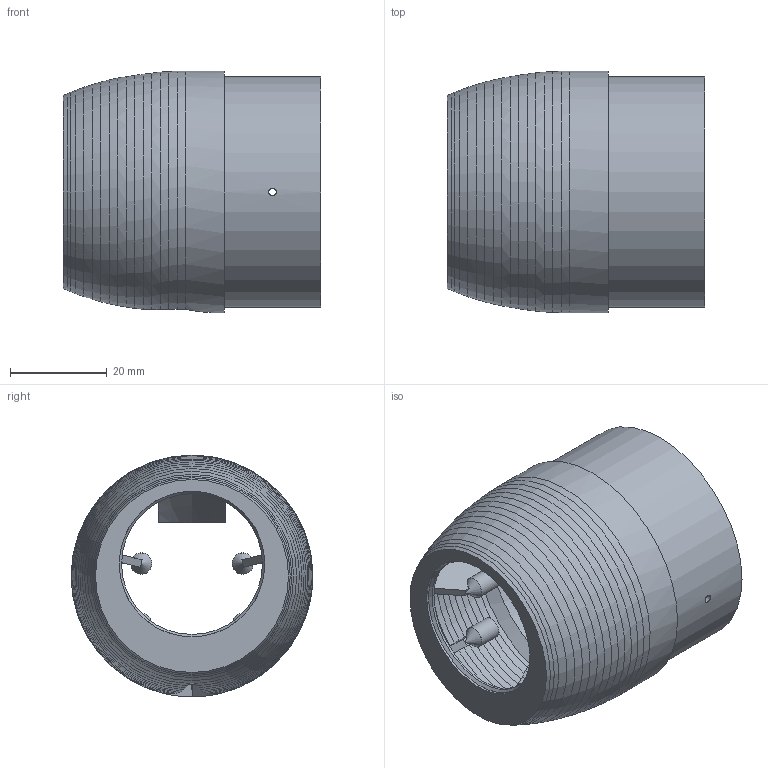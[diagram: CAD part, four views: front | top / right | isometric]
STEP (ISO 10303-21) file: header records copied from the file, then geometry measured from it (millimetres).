
FILE_DESCRIPTION(('SkyG Speed 120B - revision C7B-1 - 2026-10-09','N0P-nose-pi-camera'),'2;1');
FILE_NAME('N0P-nose-pi-camera_C7B-1','2026-10-09T15:13:00',('Author'),( 'Open CASCADE'),'Open CASCADE STEP processor 7.9','Open CASCADE 7.9' ,'Unknown');
FILE_SCHEMA(('AUTOMOTIVE_DESIGN { 1 0 10303 214 1 1 1 1 }'));
Length unit declared in the file: millimetre
Products named in the file (1): N0P-nose-pi-camera C7B-1
Bounding box: 53.3 x 50 x 50 mm (x, y, z)
Volume: 17276 mm3; surface area: 19628 mm2
Topology: 1 solids, 1 shells, 225 faces, 620 edges, 401 vertices
Faces by surface type: plane 105, cone 60, bspline 33, cylinder 27
Full cylindrical faces by diameter (mm): 1.6 x6, 29.112 x1, 30.119 x1, 43.8 x1, 47.7 x1, 50 x1
Entity records: 17302 total; most frequent: CARTESIAN_POINT 6170, DIRECTION 1769, ORIENTED_EDGE 1232, PCURVE 1232, DEFINITIONAL_REPRESENTATION 1232, LINE 840, VECTOR 840, EDGE_CURVE 616
